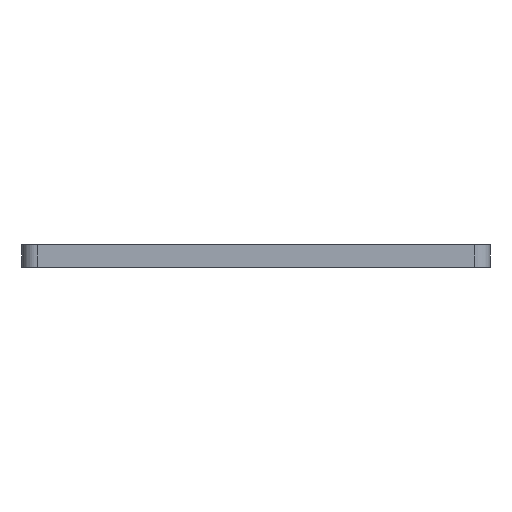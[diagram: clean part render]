
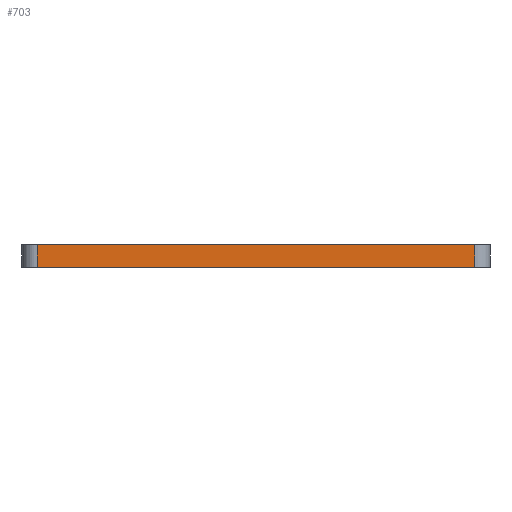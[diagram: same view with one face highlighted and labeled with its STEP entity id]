
A CAD part, left-side view. The second image highlights one B-rep face of the part: STEP entity #703.
In plain terms, the highlighted planar face has unit normal (-1, 0, 0).
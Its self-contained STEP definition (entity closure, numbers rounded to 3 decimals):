
#664=CARTESIAN_POINT('',(-50.,0.,-1.5));
#665=DIRECTION('',(0.,-1.,0.));
#666=DIRECTION('',(1.,0.,0.));
#667=AXIS2_PLACEMENT_3D('',#664,#666,#665);
#668=PLANE('',#667);
#669=CARTESIAN_POINT('',(-50.,29.,0.));
#670=VERTEX_POINT('',#669);
#671=CARTESIAN_POINT('',(-50.,-29.,0.));
#672=VERTEX_POINT('',#671);
#673=CARTESIAN_POINT('',(-50.,29.,0.));
#674=DIRECTION('',(0.,-1.,0.));
#675=VECTOR('',#674,58.);
#676=LINE('',#673,#675);
#677=EDGE_CURVE('',#670,#672,#676,.T.);
#678=ORIENTED_EDGE('E2',*,*,#677,.T.);
#679=CARTESIAN_POINT('',(-50.,-29.,-3.));
#680=VERTEX_POINT('',#679);
#681=CARTESIAN_POINT('',(-50.,-29.,0.));
#682=DIRECTION('',(0.,0.,-1.));
#683=VECTOR('',#682,3.);
#684=LINE('',#681,#683);
#685=EDGE_CURVE('',#672,#680,#684,.T.);
#686=ORIENTED_EDGE('E141',*,*,#685,.T.);
#687=CARTESIAN_POINT('',(-50.,29.,-3.));
#688=VERTEX_POINT('',#687);
#689=CARTESIAN_POINT('',(-50.,29.,-3.));
#690=DIRECTION('',(0.,-1.,0.));
#691=VECTOR('',#690,58.);
#692=LINE('',#689,#691);
#693=EDGE_CURVE('',#688,#680,#692,.T.);
#694=ORIENTED_EDGE('E6',*,*,#693,.F.);
#695=CARTESIAN_POINT('',(-50.,29.,0.));
#696=DIRECTION('',(0.,0.,-1.));
#697=VECTOR('',#696,3.);
#698=LINE('',#695,#697);
#699=EDGE_CURVE('',#670,#688,#698,.T.);
#700=ORIENTED_EDGE('E140',*,*,#699,.F.);
#701=EDGE_LOOP('',(#678,#686,#694,#700));
#702=FACE_OUTER_BOUND('',#701,.F.);
#703=ADVANCED_FACE('F1',(#702),#668,.F.);
